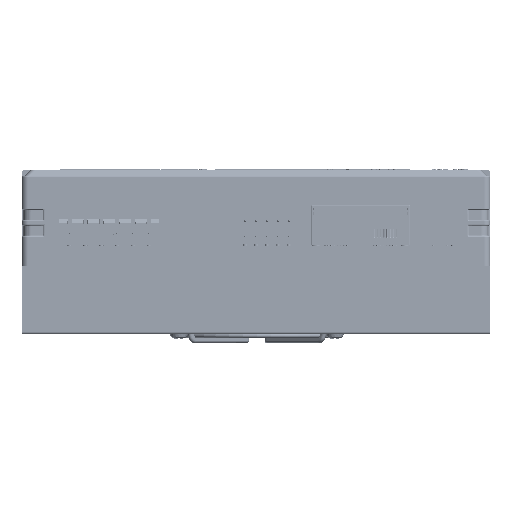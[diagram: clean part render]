
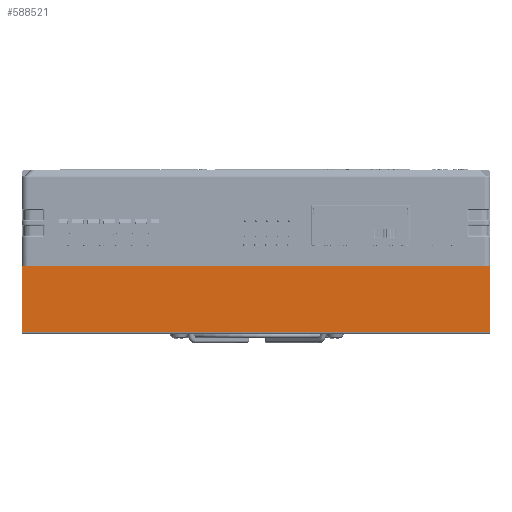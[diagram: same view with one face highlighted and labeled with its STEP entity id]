
A CAD part, front view. The second image highlights one B-rep face of the part: STEP entity #588521.
In plain terms, the highlighted planar face has unit normal (0, -1, 0).
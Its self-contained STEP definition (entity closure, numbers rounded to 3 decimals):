
#528706=CARTESIAN_POINT('Vertex',(-0.7,-78.197,0.)) ;
#528709=CARTESIAN_POINT('Line Origine',(74.3,-78.197,0.)) ;
#528713=CARTESIAN_POINT('Vertex',(149.3,-78.197,0.)) ;
#529308=CARTESIAN_POINT('Line Origine',(149.3,-78.197,-10.55)) ;
#529312=CARTESIAN_POINT('Vertex',(149.3,-78.197,-21.1)) ;
#588185=CARTESIAN_POINT('Line Origine',(-16.31,-78.197,-21.1)) ;
#588189=CARTESIAN_POINT('Vertex',(-0.7,-78.197,-21.1)) ;
#588505=CARTESIAN_POINT('Axis2P3D Location',(164.91,-78.197,-23.82)) ;
#588510=CARTESIAN_POINT('Line Origine',(-0.7,-78.197,-10.55)) ;
#528710=DIRECTION('Vector Direction',(1.,0.,0.)) ;
#529309=DIRECTION('Vector Direction',(0.,0.,-1.)) ;
#588186=DIRECTION('Vector Direction',(1.,0.,0.)) ;
#588506=DIRECTION('Axis2P3D Direction',(0.,-1.,0.)) ;
#588507=DIRECTION('Axis2P3D XDirection',(-1.,0.,0.)) ;
#588511=DIRECTION('Vector Direction',(0.,0.,-1.)) ;
#588508=AXIS2_PLACEMENT_3D('Plane Axis2P3D',#588505,#588506,#588507) ;
#588516=ORIENTED_EDGE('',*,*,#529314,.F.) ;
#588517=ORIENTED_EDGE('',*,*,#528715,.F.) ;
#588518=ORIENTED_EDGE('',*,*,#588514,.T.) ;
#588519=ORIENTED_EDGE('',*,*,#588191,.T.) ;
#528711=VECTOR('Line Direction',#528710,1.) ;
#529310=VECTOR('Line Direction',#529309,1.) ;
#588187=VECTOR('Line Direction',#588186,1.) ;
#588512=VECTOR('Line Direction',#588511,1.) ;
#588521=ADVANCED_FACE('MANIFOLD_SOLID_BREP #33593',(#588520),#588509,.T.) ;
#528715=EDGE_CURVE('',#528707,#528714,#528712,.T.) ;
#529314=EDGE_CURVE('',#528714,#529313,#529311,.T.) ;
#588191=EDGE_CURVE('',#588190,#529313,#588188,.T.) ;
#588514=EDGE_CURVE('',#528707,#588190,#588513,.T.) ;
#588515=EDGE_LOOP('',(#588516,#588517,#588518,#588519)) ;
#588520=FACE_OUTER_BOUND('',#588515,.T.) ;
#528712=LINE('Line',#528709,#528711) ;
#529311=LINE('Line',#529308,#529310) ;
#588188=LINE('Line',#588185,#588187) ;
#588513=LINE('Line',#588510,#588512) ;
#588509=PLANE('',#588508) ;
#528707=VERTEX_POINT('',#528706) ;
#528714=VERTEX_POINT('',#528713) ;
#529313=VERTEX_POINT('',#529312) ;
#588190=VERTEX_POINT('',#588189) ;
